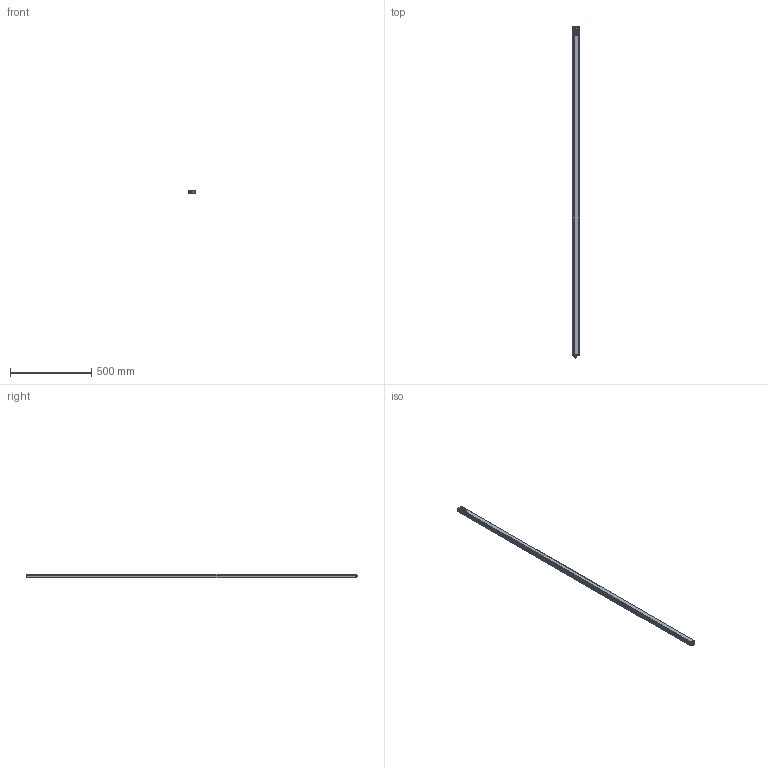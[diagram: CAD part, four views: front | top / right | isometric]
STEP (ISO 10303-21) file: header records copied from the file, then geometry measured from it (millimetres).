
FILE_DESCRIPTION(/* description */ (''),/* implementation_level */ '2;1');
FILE_NAME(/* name */ 'C:\Users\andre\SynologyDrive\Optoscan\Libreria Componenti\00 - Barriere\Polaris sorgente\Polaris_2020_TX.stp',/* time_stamp */ '2021-06-04T11:10:42+02:00',/* author */ ('andre'),/* organization */ (''),/* preprocessor_version */ 'ST-DEVELOPER v18',/* originating_system */ 'Autodesk Inventor 2020',/* authorisation */ '');
FILE_SCHEMA (('AUTOMOTIVE_DESIGN { 1 0 10303 214 3 1 1 }'));
Length unit declared in the file: millimetre
Products named in the file (1): Polaris_2020_TX
Bounding box: 40.5 x 2048.8 x 20.75 mm (x, y, z)
Volume: 402633.3 mm3; surface area: 532654.6 mm2
Topology: 1 solids, 1 shells, 738 faces, 2048 edges, 1320 vertices
Faces by surface type: plane 331, cylinder 207, bspline 115, torus 71, cone 8, sphere 6
Full cylindrical faces by diameter (mm): 1 x8, 2.459 x4, 2.5 x4, 3 x4, 3.5 x4, 5.5 x4, 8 x1, 10.5 x2, 11.75 x9, 12 x1, 12.3 x2, 14.5 x1, 16.7 x1, 17.5 x1
Entity records: 30426 total; most frequent: CARTESIAN_POINT 11243, ORIENTED_EDGE 4082, DIRECTION 3549, EDGE_CURVE 2041, VERTEX_POINT 1321, AXIS2_PLACEMENT_3D 1243, LINE 1063, VECTOR 1063
